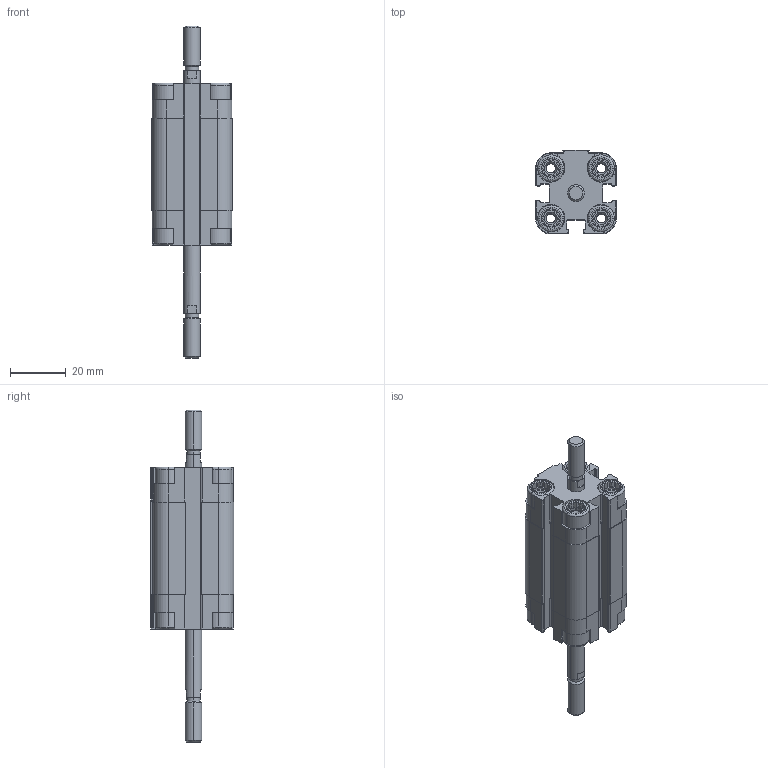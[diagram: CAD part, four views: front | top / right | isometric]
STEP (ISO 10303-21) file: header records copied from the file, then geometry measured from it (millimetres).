
FILE_DESCRIPTION (( 'STEP AP203' ), '1' );
FILE_NAME ('CDVU12-20M-P.STEP', '2020-07-21T14:56:02', ( '' ), ( '' ), 'SwSTEP 2.0', 'SolidWorks 2019', '' );
FILE_SCHEMA (( 'CONFIG_CONTROL_DESIGN' ));
Length unit declared in the file: millimetre
Products named in the file (1): CDVU12-20M-P
Bounding box: 29 x 30 x 119 mm (x, y, z)
Volume: 36710.5 mm3; surface area: 19279.5 mm2
Topology: 2 solids, 2 shells, 566 faces, 1504 edges, 978 vertices
Faces by surface type: plane 338, cylinder 164, cone 48, torus 16
Entity records: 17771 total; most frequent: CARTESIAN_POINT 3621, ORIENTED_EDGE 3000, DIRECTION 2850, EDGE_CURVE 1500, VERTEX_POINT 978, AXIS2_PLACEMENT_3D 975, VECTOR 900, LINE 900
